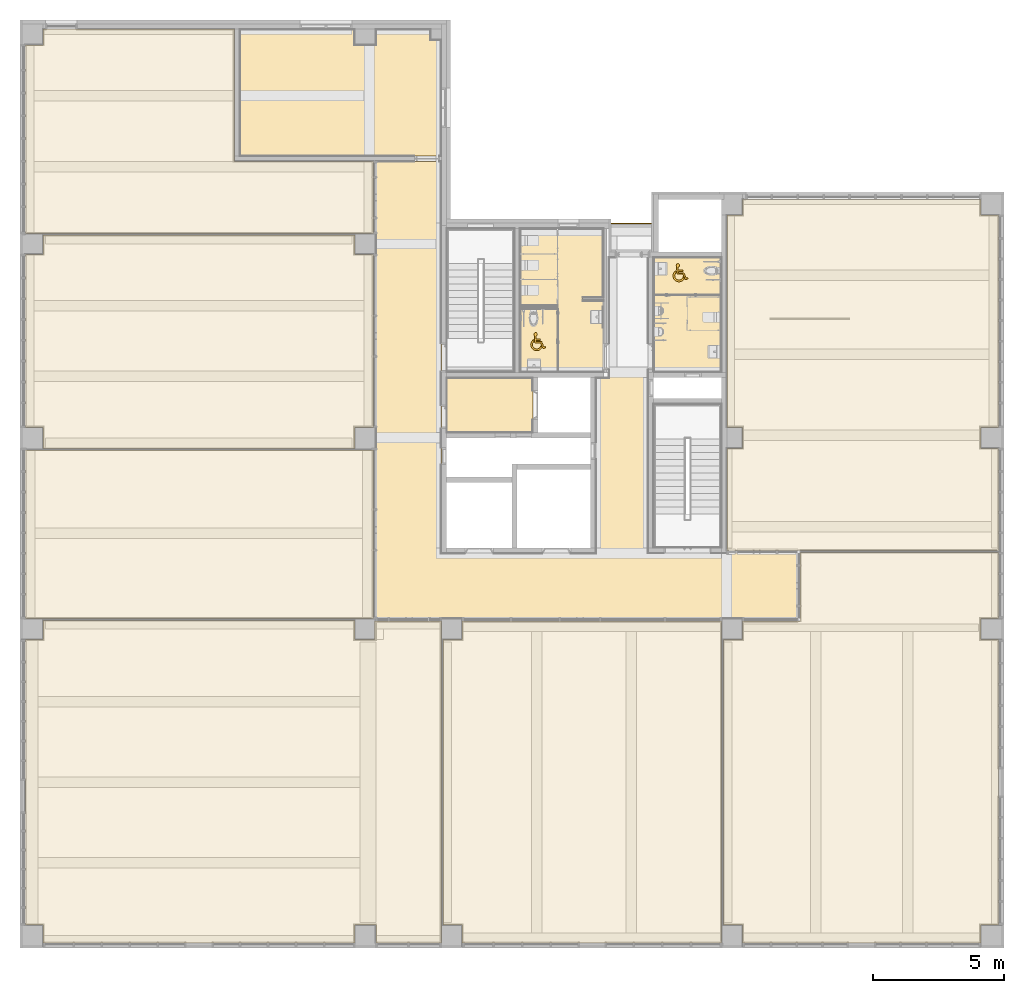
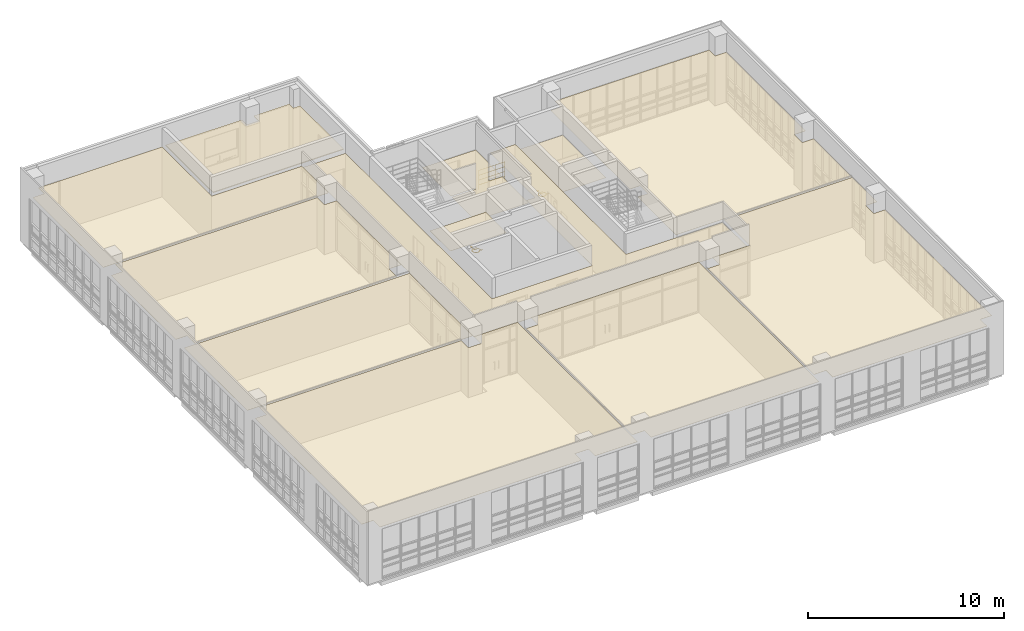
# One storey, part 67 of 74: 6 coverings, 2 doors, 1 railing.
"""IFC2X3 building model written with IfcOpenShell, lengths in millimetres."""

from ifc_helpers import new_model, entity, si_unit, converted_unit, derived_unit, direction, frame, frame_2d, origin, origin_2d_with_axis, place, context, subcontext, project, spatial, polyline, circle_curve, parameter, trimmed, segment, composite_curve, rectangle, circle, outline, extrude, source, transform, mapped, material, material_list, layer, layer_set, layer_usage, type_object, type_shapes, element, save


model = new_model("IFC2X3")

# Units and contexts
model_context = context("Model", 3, precision=0.01, world=origin(), true_north=direction((6.123031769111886e-17, 1.0)))
body_context = subcontext(model_context, "Body", "Model", "MODEL_VIEW")
ifc_project = project(units=[si_unit("LENGTHUNIT", "METRE", prefix="MILLI"), si_unit("AREAUNIT", "SQUARE_METRE"), si_unit("VOLUMEUNIT", "CUBIC_METRE"), converted_unit("PLANEANGLEUNIT", "DEGREE", entity("IfcRatioMeasure", 0.017453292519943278), si_unit("PLANEANGLEUNIT", "RADIAN"), dimensions=[0, 0, 0, 0, 0, 0, 0]), si_unit("MASSUNIT", "GRAM", prefix="KILO"), derived_unit("MASSDENSITYUNIT", [(si_unit("MASSUNIT", "GRAM", prefix="KILO"), 1), (si_unit("LENGTHUNIT", "METRE"), -3)]), derived_unit("MOMENTOFINERTIAUNIT", [(si_unit("LENGTHUNIT", "METRE"), 4)]), si_unit("TIMEUNIT", "SECOND"), si_unit("FREQUENCYUNIT", "HERTZ"), si_unit("THERMODYNAMICTEMPERATUREUNIT", "DEGREE_CELSIUS"), derived_unit("THERMALTRANSMITTANCEUNIT", [(si_unit("MASSUNIT", "GRAM", prefix="KILO"), 1), (si_unit("THERMODYNAMICTEMPERATUREUNIT", "KELVIN"), -1), (si_unit("TIMEUNIT", "SECOND"), -3)]), derived_unit("VOLUMETRICFLOWRATEUNIT", [(si_unit("LENGTHUNIT", "METRE"), 3), (si_unit("TIMEUNIT", "SECOND"), -1)]), derived_unit("MASSFLOWRATEUNIT", [(si_unit("MASSUNIT", "GRAM", prefix="KILO"), 1), (si_unit("TIMEUNIT", "SECOND"), -1)]), derived_unit("ROTATIONALFREQUENCYUNIT", [(si_unit("TIMEUNIT", "SECOND"), -1)]), si_unit("ELECTRICCURRENTUNIT", "AMPERE"), si_unit("ELECTRICVOLTAGEUNIT", "VOLT"), si_unit("POWERUNIT", "WATT"), si_unit("FORCEUNIT", "NEWTON", prefix="KILO"), si_unit("ILLUMINANCEUNIT", "LUX"), si_unit("LUMINOUSFLUXUNIT", "LUMEN"), si_unit("LUMINOUSINTENSITYUNIT", "CANDELA"), derived_unit("USERDEFINED", [(si_unit("MASSUNIT", "GRAM", prefix="KILO"), -1), (si_unit("LENGTHUNIT", "METRE"), -2), (si_unit("TIMEUNIT", "SECOND"), 3), (si_unit("LUMINOUSFLUXUNIT", "LUMEN"), 1)]), derived_unit("SOUNDPOWERUNIT", [(si_unit("MASSUNIT", "GRAM", prefix="KILO"), 1), (si_unit("LENGTHUNIT", "METRE"), 2), (si_unit("TIMEUNIT", "SECOND"), -3)]), derived_unit("SOUNDPRESSUREUNIT", [(si_unit("MASSUNIT", "GRAM", prefix="KILO"), 1), (si_unit("LENGTHUNIT", "METRE"), -1), (si_unit("TIMEUNIT", "SECOND"), -2)]), derived_unit("LINEARVELOCITYUNIT", [(si_unit("LENGTHUNIT", "METRE"), 1), (si_unit("TIMEUNIT", "SECOND"), -1)]), si_unit("PRESSUREUNIT", "PASCAL"), derived_unit("USERDEFINED", [(si_unit("LENGTHUNIT", "METRE"), -2), (si_unit("MASSUNIT", "GRAM", prefix="KILO"), 1), (si_unit("TIMEUNIT", "SECOND"), -2)]), derived_unit("LINEARFORCEUNIT", [(si_unit("MASSUNIT", "GRAM", prefix="KILO"), 1), (si_unit("LENGTHUNIT", "METRE"), 1), (si_unit("TIMEUNIT", "SECOND"), -2), (si_unit("LENGTHUNIT", "METRE"), -1)]), derived_unit("PLANARFORCEUNIT", [(si_unit("MASSUNIT", "GRAM", prefix="KILO"), 1), (si_unit("LENGTHUNIT", "METRE"), 1), (si_unit("TIMEUNIT", "SECOND"), -2), (si_unit("LENGTHUNIT", "METRE"), -2)])], contexts=[model_context])

# Site, building, storey
site_placement = place(None, frame((-14167.972527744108, -657.2125860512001, 0.0)))
site = spatial("IfcSite", under=ifc_project, at=site_placement, Name="Default", CompositionType="ELEMENT")
building_placement = place(site_placement, origin())
building = spatial("IfcBuilding", under=site, at=building_placement, Name="Sample Building", CompositionType="ELEMENT")
storey_placement = place(building_placement, frame((0.0, 0.0, 4800.0)))
storey = spatial("IfcBuildingStorey", under=building, at=storey_placement, Name="지상 2층", CompositionType="ELEMENT", Elevation=4800.000000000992)

# Doors
ifc_material_1 = material(Name="KBIMS-노면용 페인트_진하늘색")
ifc_material_list_1 = material_list([ifc_material_1, ifc_material_1])
ifc_material_list_2 = material_list([ifc_material_1, ifc_material_1])
door_style = type_object("IfcDoorStyle", Name="SE251-장애인전용 표시:SE251-장애인전용 표시", ConstructionType="NOTDEFINED", OperationType="NOTDEFINED", ParameterTakesPrecedence=False, Sizeable=False, material=ifc_material_list_2)
shared_shape = source(origin(), body_context, "Body", "SweptSolid", [
    extrude(outline(composite_curve([segment(trimmed(circle_curve(frame_2d((-36.68855283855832, -47.74251805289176), x_axis=(1.0, 0.0)), 229.68578343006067), [parameter(118.63343780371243)], [parameter(330.18087778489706)], True, "PARAMETER"), True, "CONTINUOUS"), segment(polyline([(162.58672770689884, -161.9568852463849), (125.13875807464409, -69.8626552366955)]), True, "CONTINUOUS"), segment(trimmed(circle_curve(frame_2d((-36.68855283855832, -47.74251805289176), x_axis=(1.0, 0.0)), 163.33211266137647), [parameter(129.67752554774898)], [parameter(352.21649007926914)], True, "PARAMETER"), False, "CONTINUOUS"), segment(polyline([(-140.97054841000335, 77.96605136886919), (-146.7549373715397, 153.85348911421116)]), True, "CONTINUOUS")], self_intersect=False)), frame((71.31807136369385, -37.57408412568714, 0.0)), (0.0, 0.0, 1.0), 1.5875),
    extrude(outline(composite_curve([segment(polyline([(-282.31222354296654, -186.97456283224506), (25.012127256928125, -186.974562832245)]), True, "CONTINUOUS"), segment(polyline([(25.012127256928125, -186.974562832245), (42.305091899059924, 39.89793596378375)]), True, "CONTINUOUS"), segment(polyline([(42.30509189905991, 39.89793596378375), (263.5159692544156, 110.7895168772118)]), True, "CONTINUOUS"), segment(polyline([(263.5159692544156, 110.7895168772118), (230.53394569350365, 215.81642815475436)]), True, "CONTINUOUS"), segment(polyline([(230.53394569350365, 215.81642815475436), (181.07321552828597, 202.95741624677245)]), True, "CONTINUOUS"), segment(polyline([(181.07321552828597, 202.95741624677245), (198.08692429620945, 148.77950087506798)]), True, "CONTINUOUS"), segment(polyline([(198.08692429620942, 148.77950087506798), (-10.806586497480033, 81.83527372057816)]), True, "CONTINUOUS"), segment(polyline([(-10.806586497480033, 81.83527372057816), (-27.016565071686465, -130.829149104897)]), True, "CONTINUOUS"), segment(polyline([(-27.01656507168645, -130.829149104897), (-74.51295100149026, -130.82914910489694)]), True, "CONTINUOUS"), segment(polyline([(-74.51295100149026, -130.82914910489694), (-60.984513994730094, 46.65518467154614)]), True, "CONTINUOUS"), segment(polyline([(-60.984513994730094, 46.65518467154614), (-111.87816757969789, 50.53446557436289)]), True, "CONTINUOUS"), segment(polyline([(-111.87816757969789, 50.53446557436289), (-125.70229607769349, -130.82914910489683)]), True, "CONTINUOUS"), segment(polyline([(-125.70229607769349, -130.82914910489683), (-247.3139701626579, -130.8291491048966)]), True, "CONTINUOUS"), segment(trimmed(circle_curve(frame_2d((-311.1107235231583, -130.04222235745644), x_axis=(0.07600280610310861, 0.9971076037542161)), 63.80160650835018), [parameter(273.6521413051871)], [parameter(211.19083029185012)], True, "PARAMETER"), True, "CONTINUOUS")], self_intersect=False)), frame((145.3871253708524, 15.097937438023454, 0.0), z_axis=(0.0, 0.0, 1.0), x_axis=(0.07600280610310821, -0.9971076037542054, 0.0)), (0.0, 0.0, 1.0), 1.5875),
])
type_shapes(door_style, [shared_shape])
door_1_placement = place(storey_placement, frame((33677.963692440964, 23597.21230348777, 0.0)))
element("IfcDoor", 1, at=door_1_placement, inside=storey, type_object=door_style, material=ifc_material_list_1, Name="SE251-장애인전용 표시:SE251-장애인전용 표시", ObjectType="SE251-장애인전용 표시:SE251-장애인전용 표시", OverallHeight=1.5875, OverallWidth=572.3706125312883, context=body_context, shape_type="MappedRepresentation", body=[
    mapped(shared_shape, transform((0.0, 0.0, 0.0), scale=1.0)),
])
door_2_placement = place(storey_placement, frame((39107.972527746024, 26227.212300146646, 0.0)))
element("IfcDoor", 2, at=door_2_placement, inside=storey, type_object=door_style, material=ifc_material_1, Name="SE251-장애인전용 표시:SE251-장애인전용 표시", ObjectType="SE251-장애인전용 표시:SE251-장애인전용 표시", OverallHeight=1.5875, OverallWidth=572.3706125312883, context=body_context, shape_type="MappedRepresentation", body=[
    mapped(shared_shape, transform((0.0, 0.0, 0.0), scale=1.0)),
])

# Covering
ifc_material_2 = material(Name="CE782-경량철골천장틀(M-Bar) 천장")
ifc_layer_1 = layer(ifc_material_2, 1.0)
ifc_material_3 = material(Name="CE742-무석면텍스 천장 (시멘트계천장재) (6mm)")
ifc_layer_2 = layer(ifc_material_3, 6.0)
ifc_layer_set_1 = layer_set([ifc_layer_1, ifc_layer_2], Name="복합 천장:A1-44-11A-경량철골천장틀(M-Bar), 무석면텍스 (7mm)")
ifc_layer_usage_1 = layer_usage(ifc_layer_set_1, "AXIS3", "POSITIVE", 0.0)
covering_type_1 = type_object("IfcCoveringType", Name="복합 천장:A1-44-11A-경량철골천장틀(M-Bar), 무석면텍스 (7mm)", PredefinedType="CEILING")
covering_1_placement = place(storey_placement, origin())
element("IfcCovering", 3, at=covering_1_placement, inside=storey, type_object=covering_type_1, material=ifc_layer_usage_1, Name="복합 천장:A1-44-11A-경량철골천장틀(M-Bar), 무석면텍스 (7mm)", ObjectType="복합 천장:A1-44-11A-경량철골천장틀(M-Bar), 무석면텍스 (7mm)", PredefinedType="CEILING", context=body_context, shape_type="SweptSolid", body=[
    extrude(outline(polyline([(-5050.688183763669, -2343.325646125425), (-5050.688183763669, -6248.360276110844), (-5013.1881837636, -6248.360276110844), (2524.303154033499, -6248.360276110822), (5324.311847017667, -6248.360276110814), (5324.311847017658, -2343.325646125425), (4724.3031737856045, -2343.325646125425), (4724.3031737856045, -1543.325646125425), (5324.311847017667, -1543.325646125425), (5324.31184701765, 6556.674353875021), (4724.303154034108, 6556.674353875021), (4724.303154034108, 7156.674341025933), (-4375.705569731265, 7156.674341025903), (-4375.705569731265, 6556.67444182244), (-5050.688183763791, 6556.67444182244), (-5050.688183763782, -1543.325646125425), (-4375.705569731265, -1543.325646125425), (-4375.705569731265, -2343.325646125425), (-5050.688183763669, -2343.325646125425)])), frame((46292.275645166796, 21900.537954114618, 3180.0), z_axis=(0.0, 0.0, -1.0), x_axis=(-1.0, 0.0, 0.0)), (0.0, 0.0, -1.0), 6.999999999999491),
    extrude(rectangle(XDim=13284.999920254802, YDim=6437.465316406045, at=frame_2d((5.99870938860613, 1072.9108860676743), x_axis=(1.0, 0.0))), frame((20829.473821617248, 15203.03408012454, 3180.0)), (0.0, 0.0, 1.0), 6.999999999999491),
    extrude(outline(polyline([(-4304.545356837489, 5242.728736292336), (-4304.5453568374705, -2057.2713003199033), (545.454663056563, -2057.271300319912), (745.4546630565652, -2057.271300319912), (745.4546630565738, -7367.279123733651), (3495.4543522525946, -7367.279123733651), (3495.4543522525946, -6657.271300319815), (3495.4543522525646, 5242.728736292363), (3495.45435225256, 5917.728619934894), (-3704.5453422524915, 5917.728619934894), (-3704.5453422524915, 5242.728736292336), (-4304.545356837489, 5242.728736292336)])), frame((20110.701190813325, 31252.666938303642, 3180.0), z_axis=(0.0, 0.0, -1.0), x_axis=(0.0, -1.0, 0.0)), (0.0, 0.0, -1.0), 6.999999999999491),
    extrude(outline(polyline([(5955.830473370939, -3310.4224009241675), (6630.830357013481, -3310.4224009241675), (6630.830357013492, 3289.5775990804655), (5955.830473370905, 3289.5775990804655), (5955.830473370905, 4089.612282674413), (-5944.169563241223, 4089.6122826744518), (-5944.169563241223, 3289.577599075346), (-6654.152177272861, 3289.577599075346), (-6654.152177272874, -3310.4224009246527), (-5944.16956324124, -3310.4224009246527), (-5944.16956324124, -4047.922678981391), (5955.830473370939, -4047.9226789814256), (5955.830473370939, -3310.4224009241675)])), frame((20823.802927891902, 23646.78990706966, 3180.0), z_axis=(0.0, 0.0, 1.0), x_axis=(-1.0, 0.0, 0.0)), (0.0, 0.0, 1.0), 6.999999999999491),
    extrude(outline(polyline([(8384.706835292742, -5760.302405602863), (9059.706718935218, -5760.302405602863), (9059.706718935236, 5139.698016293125), (8384.706835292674, 5139.698016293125), (8384.706835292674, 5814.697607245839), (-3515.2932013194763, 5814.697607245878), (-3515.2932013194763, 5139.69801629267), (-4315.293201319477, 5139.69801629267), (-4315.293201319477, 5814.697607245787), (-6815.2931738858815, 5814.697607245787), (-6815.2931738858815, 5139.698016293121), (-6815.2931738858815, -6460.267722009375), (-4260.301024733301, -6460.267722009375), (-4260.301024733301, -5760.302405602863), (-3515.293201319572, -5760.302405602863), (-3515.293201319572, -6497.767722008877), (8384.706835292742, -6497.76772200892), (8384.706835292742, -5760.302405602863)])), frame((23252.679289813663, 6496.90990238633, 3180.0), z_axis=(0.0, 0.0, 1.0), x_axis=(-1.0, 0.0, 0.0)), (0.0, 0.0, 1.0), 6.999999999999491),
    extrude(outline(polyline([(5455.200348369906, -3812.5000109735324), (6130.199939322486, -3812.5000109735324), (6130.199939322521, 6087.500016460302), (5455.200348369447, 6087.500016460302), (-5426.800073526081, 6087.500016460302), (-6154.800351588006, 6087.500016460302), (-6154.800351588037, -3812.5000109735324), (-5444.800073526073, -3812.5000109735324), (-5444.800073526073, -4550.0000109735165), (5455.200348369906, -4550.000010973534), (5455.200348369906, -3812.5000109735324)])), frame((34680.47247467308, 6812.412234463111, 3180.0), z_axis=(0.0, 0.0, 1.0), x_axis=(0.0, -1.0, 0.0)), (0.0, 0.0, 1.0), 6.999999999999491),
    extrude(outline(polyline([(7739.257014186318, -5188.143492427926), (8414.256605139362, -5188.143492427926), (8414.256605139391, 3911.8652039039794), (7739.256592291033, 3911.8652039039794), (7739.256592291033, 4586.847845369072), (-3160.7438296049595, 4586.84784536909), (-3160.7438296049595, 3911.856501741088), (-3960.7438296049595, 3911.856501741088), (-3960.7438296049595, 4586.847845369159), (-6493.208777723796, 4586.847845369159), (-6493.208777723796, 4549.34784536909), (-6493.208777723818, -2988.1434924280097), (-3870.725978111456, -2988.1434924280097), (-3870.7259781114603, -5188.143492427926), (-3160.743407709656, -5188.143492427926), (-3160.743407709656, -5907.660841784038), (7739.257014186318, -5907.660841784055), (7739.257014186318, -5188.143492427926)])), frame((46756.11598356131, 9096.468900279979, 3180.0), z_axis=(0.0, 0.0, 1.0), x_axis=(0.0, -1.0, 0.0)), (0.0, 0.0, 1.0), 6.999999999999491),
])

# Space
space_1_placement = place(storey_placement, origin())
space_1 = spatial("IfcSpace", under=storey, at=space_1_placement, Name="190", CompositionType="ELEMENT", InteriorOrExteriorSpace="INTERNAL")

# Covering
ifc_layer_usage_2 = layer_usage(ifc_layer_set_1, "AXIS3", "POSITIVE", 0.0)
covering_type_2 = type_object("IfcCoveringType", Name="복합 천장:A1-44-11A-경량철골천장틀(M-Bar), 무석면텍스 (7mm)", PredefinedType="CEILING")
covering_2_placement = place(space_1_placement, origin())
element("IfcCovering", 4, at=covering_2_placement, inside=space_1, type_object=covering_type_2, material=ifc_layer_usage_2, Name="복합 천장:A1-44-11A-경량철골천장틀(M-Bar), 무석면텍스 (7mm)", ObjectType="복합 천장:A1-44-11A-경량철골천장틀(M-Bar), 무석면텍스 (7mm)", PredefinedType="CEILING", context=body_context, shape_type="SweptSolid", body=[
    extrude(outline(polyline([(-4168.518447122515, 3779.9932425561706), (10785.390881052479, 3779.9932425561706), (10785.390881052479, 6280.001862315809), (8035.390913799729, 6280.001862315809), (7235.390913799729, 6280.001862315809), (635.3909137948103, 6280.001862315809), (-164.60908620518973, 6280.001862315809), (-6664.609086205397, 6280.001862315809), (-6664.609086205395, 3780.1379265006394), (-6664.609086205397, 2979.9845129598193), (-6664.609086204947, -6920.015487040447), (-6664.609086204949, -7720.015487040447), (-6664.608808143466, -9820.015487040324), (-4164.6090990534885, -9820.015487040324), (-4164.6090990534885, -4120.0067940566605), (7135.39090094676, -4120.0067940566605), (7135.39090094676, -2620.0067940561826), (2535.3909171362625, -2620.0067940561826), (2535.3909171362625, -2120.0154870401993), (-4168.518447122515, -2120.0154870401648), (-4168.518447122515, 3779.9932425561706)])), frame((33847.95700409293, 19721.82139419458, 3080.0), z_axis=(0.0, 0.0, 1.0), x_axis=(0.0, 1.0, 0.0)), (0.0, 0.0, 1.0), 6.999999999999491),
])

# Space
space_2_placement = place(storey_placement, origin())
space_2 = spatial("IfcSpace", under=storey, at=space_2_placement, Name="185", CompositionType="ELEMENT", InteriorOrExteriorSpace="INTERNAL")

# Covering
ifc_layer_usage_3 = layer_usage(ifc_layer_set_1, "AXIS3", "POSITIVE", 0.0)
covering_type_3 = type_object("IfcCoveringType", Name="복합 천장:A1-44-11A-경량철골천장틀(M-Bar), 무석면텍스 (7mm)", PredefinedType="CEILING")
covering_3_placement = place(space_2_placement, origin())
element("IfcCovering", 5, at=covering_3_placement, inside=space_2, type_object=covering_type_3, material=ifc_layer_usage_3, Name="복합 천장:A1-44-11A-경량철골천장틀(M-Bar), 무석면텍스 (7mm)", ObjectType="복합 천장:A1-44-11A-경량철골천장틀(M-Bar), 무석면텍스 (7mm)", PredefinedType="CEILING", context=body_context, shape_type="SweptSolid", body=[
    extrude(rectangle(XDim=3300.0087295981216, YDim=2100.0000033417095, at=origin_2d_with_axis()), frame((31917.968126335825, 21207.21230965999, 3180.0), z_axis=(0.0, 0.0, 1.0), x_axis=(-1.0, 0.0, 0.0)), (0.0, 0.0, 1.0), 6.999999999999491),
])

# Space
space_3_placement = place(storey_placement, origin())
space_3 = spatial("IfcSpace", under=storey, at=space_3_placement, Name="87", CompositionType="ELEMENT", InteriorOrExteriorSpace="INTERNAL")

# Coverings
ifc_material_4 = material(Name="CE554-콘크리트면정리 천장")
ifc_layer_3 = layer(ifc_material_4, 1.0)
ifc_material_5 = material(Name="CE751-유리면 흡음판 천장 (48k, 그라스크로스, 50mm)")
ifc_layer_4 = layer(ifc_material_5, 49.0)
ifc_layer_set_2 = layer_set([ifc_layer_3, ifc_layer_4], Name="복합 천장:A1-46-01B-콘크리트면정리, 유리면 흡음판(그라스크로스) (50mm)")
ifc_layer_usage_4 = layer_usage(ifc_layer_set_2, "AXIS3", "POSITIVE", 0.0)
covering_type_4 = type_object("IfcCoveringType", Name="복합 천장:A1-46-01B-콘크리트면정리, 유리면 흡음판(그라스크로스) (50mm)", PredefinedType="CEILING")
covering_4_placement = place(space_3_placement, origin())
element("IfcCovering", 6, at=covering_4_placement, inside=space_3, type_object=covering_type_4, material=ifc_layer_usage_4, Name="복합 천장:A1-46-01B-콘크리트면정리, 유리면 흡음판(그라스크로스) (50mm)", ObjectType="복합 천장:A1-46-01B-콘크리트면정리, 유리면 흡음판(그라스크로스) (50mm)", PredefinedType="CEILING", context=body_context, shape_type="SweptSolid", body=[
    extrude(outline(polyline([(439.99650816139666, -1150.0000043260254), (4939.996508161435, -1150.0000043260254), (4939.996508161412, 3700.0000155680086), (-2759.994762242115, 3700.0000155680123), (-2759.994762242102, -750.00001717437), (-2359.994762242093, -750.0000171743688), (-2359.9947622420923, -1150.0000043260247), (-260.0034918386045, -1150.0000043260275), (-260.0034918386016, -649.9999897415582), (439.99650816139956, -649.9999897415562), (439.99650816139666, -1150.0000043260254)])), frame((27307.96899929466, 34407.21229081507, 3180.0), z_axis=(0.0, 0.0, 1.0), x_axis=(-1.0, 0.0, 0.0)), (0.0, 0.0, 1.0), 49.99999999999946),
])
ifc_layer_5 = layer(ifc_material_2, 1.0)
ifc_material_6 = material(Name="CE761-열경화성수지 천장 (300x300x1.2mm)")
ifc_layer_6 = layer(ifc_material_6, 1.0)
ifc_layer_set_3 = layer_set([ifc_layer_5, ifc_layer_6], Name="복합 천장:A1-45-06A-경량철골천장틀(M-Bar), 열경화성수지(300x300x1.2mm) (2mm) TYPE-D")
ifc_layer_usage_5 = layer_usage(ifc_layer_set_3, "AXIS3", "POSITIVE", 0.0)
covering_type_5 = type_object("IfcCoveringType", Name="복합 천장:A1-45-06A-경량철골천장틀(M-Bar), 열경화성수지(300x300x1.2mm) (2mm) TYPE-D", PredefinedType="CEILING")
covering_5_placement = place(storey_placement, origin())
element("IfcCovering", 7, at=covering_5_placement, inside=storey, type_object=covering_type_5, material=ifc_layer_usage_5, Name="복합 천장:A1-45-06A-경량철골천장틀(M-Bar), 열경화성수지(300x300x1.2mm) (2mm) TYPE-D", ObjectType="복합 천장:A1-45-06A-경량철골천장틀(M-Bar), 열경화성수지(300x300x1.2mm) (2mm) TYPE-D", PredefinedType="CEILING", context=body_context, shape_type="SweptSolid", body=[
    extrude(outline(polyline([(-1462.494197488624, -2793.4894692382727), (1677.4883734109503, -2793.4894692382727), (1677.4883734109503, 146.97894098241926), (262.5058456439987, 146.97894098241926), (262.5058456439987, 236.97894098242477), (1677.4883734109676, 236.97894098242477), (1677.4883734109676, 2646.510527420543), (-1462.494197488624, 2646.510527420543), (-1462.494197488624, -73.48947090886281), (-692.4941974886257, -73.48947090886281), (-692.4941974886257, -163.48946923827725), (-1462.494197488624, -163.48946923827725), (-1462.494197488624, -2793.4894692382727)])), frame((34775.46960066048, 25133.72283875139, 2690.0), z_axis=(0.0, 0.0, 1.0), x_axis=(-1.0, 0.0, 0.0)), (0.0, 0.0, 1.0), 1.9999999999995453),
])
ifc_layer_usage_6 = layer_usage(ifc_layer_set_3, "AXIS3", "POSITIVE", 0.0)
covering_type_6 = type_object("IfcCoveringType", Name="복합 천장:A1-45-06A-경량철골천장틀(M-Bar), 열경화성수지(300x300x1.2mm) (2mm) TYPE-D", PredefinedType="CEILING")
covering_6_placement = place(storey_placement, origin())
element("IfcCovering", 8, at=covering_6_placement, inside=storey, type_object=covering_type_6, material=ifc_layer_usage_6, Name="복합 천장:A1-45-06A-경량철골천장틀(M-Bar), 열경화성수지(300x300x1.2mm) (2mm) TYPE-D", ObjectType="복합 천장:A1-45-06A-경량철골천장틀(M-Bar), 열경화성수지(300x300x1.2mm) (2mm) TYPE-D", PredefinedType="CEILING", context=body_context, shape_type="SweptSolid", body=[
    extrude(rectangle(XDim=2600.0000000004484, YDim=4399.999996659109, at=origin_2d_with_axis()), frame((39467.963798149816, 24657.212296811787, 2690.0), z_axis=(0.0, 0.0, 1.0), x_axis=(-1.0, 0.0, 0.0)), (0.0, 0.0, 1.0), 1.9999999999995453),
])

# Railing
ifc_material_7 = material(Name="KBIMS-난간")
ifc_material_8 = material(Name="KBIMS-금속재")
ifc_material_list_3 = material_list([ifc_material_7, ifc_material_7, ifc_material_7, ifc_material_8, ifc_material_8, ifc_material_8, ifc_material_8])
railing_placement = place(storey_placement, origin())
element("IfcRailing", 9, at=railing_placement, inside=storey, material=ifc_material_list_3, Name="난간:RL780-금속재 난간", ObjectType="난간:RL780-금속재 난간", PredefinedType="NOTDEFINED", context=body_context, shape_type="SweptSolid", body=[
    extrude(rectangle(XDim=24.99999999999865, YDim=24.99999999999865, at=origin_2d_with_axis()), frame((37547.963798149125, 28132.212426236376, 0.0)), (0.0, 0.0, 1.0), 1164.9999999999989),
    extrude(rectangle(XDim=24.99999999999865, YDim=24.99999999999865, at=origin_2d_with_axis()), frame((38075.47249112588, 28132.212426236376, 0.0)), (0.0, 0.0, 1.0), 1164.9999999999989),
    extrude(rectangle(XDim=24.99999999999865, YDim=24.99999999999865, at=origin_2d_with_axis()), frame((36547.963798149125, 28132.21242623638, 0.0)), (0.0, 0.0, 1.0), 1164.9999999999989),
    extrude(circle(Radius=17.5, at=origin_2d_with_axis()), frame((36547.963798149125, 28132.21242623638, 1182.4999999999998), z_axis=(1.0, 0.0, 0.0), x_axis=(0.0, -1.0, 0.0)), (0.0, 0.0, 1.0), 1540.0086929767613),
    extrude(circle(Radius=17.5, at=origin_2d_with_axis()), frame((36547.963798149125, 28132.21242623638, 882.4999999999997), z_axis=(1.0, 0.0, 0.0), x_axis=(0.0, -1.0, 0.0)), (0.0, 0.0, 1.0), 1540.0086929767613),
    extrude(circle(Radius=17.5, at=origin_2d_with_axis()), frame((36547.963798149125, 28132.21242623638, 582.4999999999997), z_axis=(1.0, 0.0, 0.0), x_axis=(0.0, -1.0, 0.0)), (0.0, 0.0, 1.0), 1540.0086929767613),
    extrude(circle(Radius=17.5, at=origin_2d_with_axis()), frame((36547.963798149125, 28132.21242623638, 282.49999999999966), z_axis=(1.0, 0.0, 0.0), x_axis=(0.0, -1.0, 0.0)), (0.0, 0.0, 1.0), 1540.0086929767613),
])

save(model, "model.ifc")
